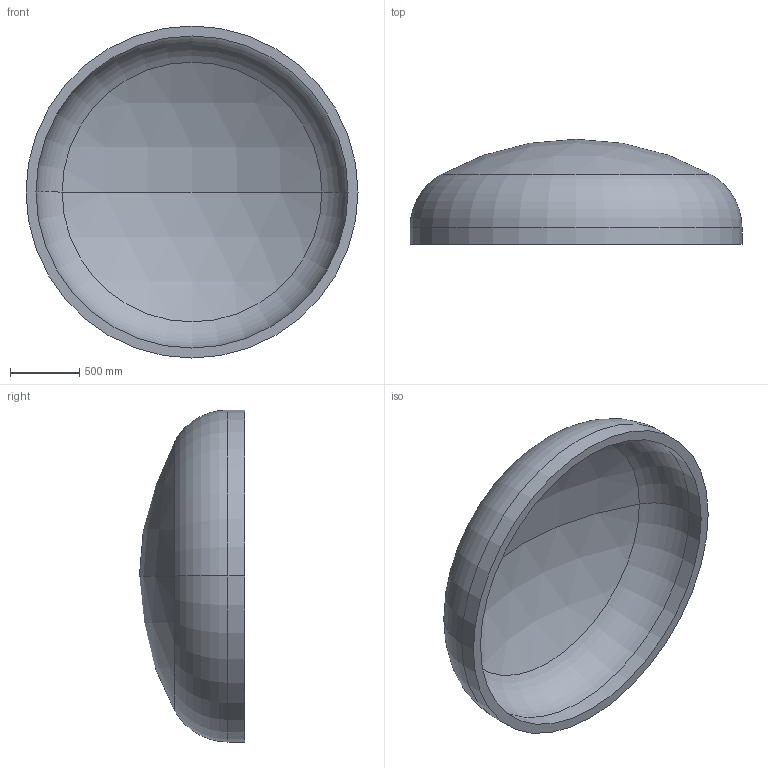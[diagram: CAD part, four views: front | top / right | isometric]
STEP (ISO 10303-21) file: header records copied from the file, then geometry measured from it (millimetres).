
FILE_DESCRIPTION (( 'STEP AP203' ), '1' );
FILE_NAME ('DIN 28013 Korbbogenform_-_Boden DIN 28013 - 2400 x 120 - I - s=72.step', '2016-07-01T15:33:03', ( '' ), ( '' ), 'SwSTEP 2.0', 'SolidWorks 2013', '' );
FILE_SCHEMA (( 'CONFIG_CONTROL_DESIGN' ));
Length unit declared in the file: millimetre
Products named in the file (1): DIN 28013 Korbbogenform_-_Boden DIN 28013 - 2400 x 120 - I - s=72
Bounding box: 2400 x 759.99 x 2400 mm (x, y, z)
Volume: 497063691.4 mm3; surface area: 14344759 mm2
Topology: 1 solids, 1 shells, 13 faces, 24 edges, 14 vertices
Faces by surface type: torus 4, cylinder 4, sphere 4, plane 1
Entity records: 407 total; most frequent: DIRECTION 72, CARTESIAN_POINT 52, ORIENTED_EDGE 48, AXIS2_PLACEMENT_3D 34, EDGE_CURVE 24, CIRCLE 20, VERTEX_POINT 14, EDGE_LOOP 14
